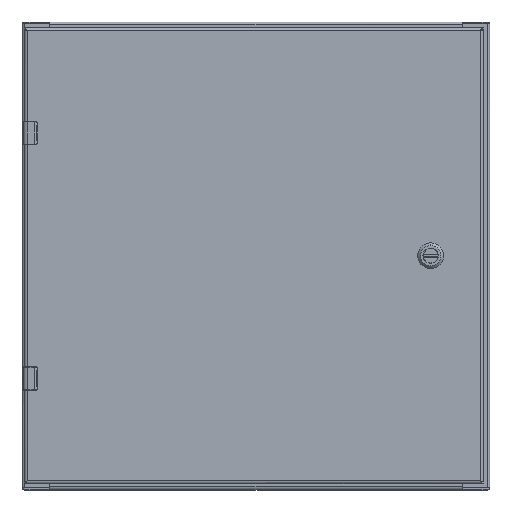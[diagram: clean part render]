
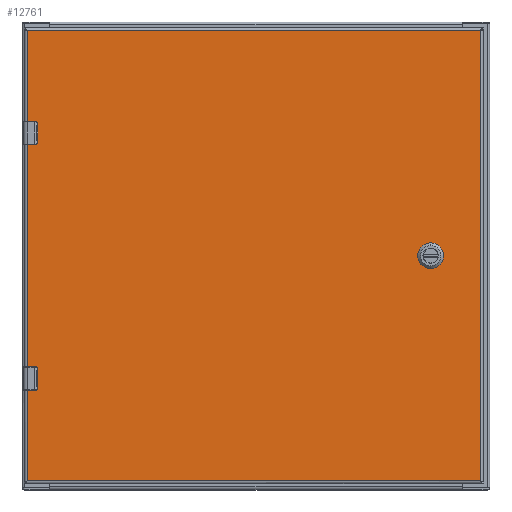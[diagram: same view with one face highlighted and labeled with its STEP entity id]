
A CAD part, top view. The second image highlights one B-rep face of the part: STEP entity #12761.
In plain terms, the highlighted planar face has unit normal (0, 0, 1).
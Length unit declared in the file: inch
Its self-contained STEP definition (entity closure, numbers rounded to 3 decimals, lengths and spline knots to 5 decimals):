
#9442=CARTESIAN_POINT('',(7.5625,0.,0.));
#9443=DIRECTION('',(0.,0.,1.));
#9444=DIRECTION('',(-0.448,0.894,0.));
#9445=AXIS2_PLACEMENT_3D('',#9442,#9443,#9444);
#9450=DIRECTION('',(0.,-1.,0.));
#9451=VECTOR('',#9450,0.39715);
#9452=CARTESIAN_POINT('',(7.1665,0.19858,0.));
#9453=LINE('',#9452,#9451);
#9457=CARTESIAN_POINT('',(7.5625,0.,0.));
#9458=DIRECTION('',(0.,0.,1.));
#9459=DIRECTION('',(-0.894,-0.448,0.));
#9460=AXIS2_PLACEMENT_3D('',#9457,#9458,#9459);
#9465=DIRECTION('',(1.,0.,0.));
#9466=VECTOR('',#9465,0.39715);
#9467=CARTESIAN_POINT('',(7.36392,-0.396,0.));
#9468=LINE('',#9467,#9466);
#9472=CARTESIAN_POINT('',(7.5625,0.,0.));
#9473=DIRECTION('',(0.,0.,1.));
#9474=DIRECTION('',(0.448,-0.894,0.));
#9475=AXIS2_PLACEMENT_3D('',#9472,#9473,#9474);
#9480=DIRECTION('',(0.,1.,0.));
#9481=VECTOR('',#9480,0.39715);
#9482=CARTESIAN_POINT('',(7.9585,-0.19858,0.));
#9483=LINE('',#9482,#9481);
#9487=CARTESIAN_POINT('',(7.5625,0.,0.));
#9488=DIRECTION('',(0.,0.,1.));
#9489=DIRECTION('',(0.894,0.448,0.));
#9490=AXIS2_PLACEMENT_3D('',#9487,#9488,#9489);
#9495=DIRECTION('',(-1.,0.,0.));
#9496=VECTOR('',#9495,0.39715);
#9497=CARTESIAN_POINT('',(7.76108,0.396,0.));
#9498=LINE('',#9497,#9496);
#9502=DIRECTION('',(1.,0.,0.));
#9503=VECTOR('',#9502,0.3629);
#9504=CARTESIAN_POINT('',(-9.6955,-5.595,0.));
#9505=LINE('',#9504,#9503);
#9509=DIRECTION('',(0.,1.,0.));
#9510=VECTOR('',#9509,0.63);
#9511=CARTESIAN_POINT('',(-9.3026,-5.565,0.));
#9512=LINE('',#9511,#9510);
#9516=DIRECTION('',(1.,0.,0.));
#9517=VECTOR('',#9516,0.3629);
#9518=CARTESIAN_POINT('',(-9.6955,-4.905,0.));
#9519=LINE('',#9518,#9517);
#9523=DIRECTION('',(1.,0.,0.));
#9524=VECTOR('',#9523,0.3629);
#9525=CARTESIAN_POINT('',(-9.6955,4.905,0.));
#9526=LINE('',#9525,#9524);
#9530=DIRECTION('',(0.,1.,0.));
#9531=VECTOR('',#9530,0.63);
#9532=CARTESIAN_POINT('',(-9.3026,4.935,0.));
#9533=LINE('',#9532,#9531);
#9537=DIRECTION('',(1.,0.,0.));
#9538=VECTOR('',#9537,0.3629);
#9539=CARTESIAN_POINT('',(-9.6955,5.595,0.));
#9540=LINE('',#9539,#9538);
#10061=DIRECTION('',(0.,-1.,0.));
#10062=VECTOR('',#10061,19.266);
#10063=CARTESIAN_POINT('',(9.6955,9.633,0.));
#10064=LINE('',#10063,#10062);
#10137=DIRECTION('',(1.,0.,0.));
#10138=VECTOR('',#10137,19.391);
#10139=CARTESIAN_POINT('',(-9.6955,9.633,0.));
#10140=LINE('',#10139,#10138);
#10271=DIRECTION('',(0.,1.,0.));
#10272=VECTOR('',#10271,9.81);
#10273=CARTESIAN_POINT('',(-9.6955,-4.905,0.));
#10274=LINE('',#10273,#10272);
#10278=CARTESIAN_POINT('',(-9.6955,9.633,0.));
#10319=DIRECTION('',(0.,1.,0.));
#10320=VECTOR('',#10319,4.038);
#10321=CARTESIAN_POINT('',(-9.6955,5.595,0.));
#10322=LINE('',#10321,#10320);
#10397=DIRECTION('',(0.,1.,0.));
#10398=VECTOR('',#10397,4.038);
#10399=CARTESIAN_POINT('',(-9.6955,-9.633,0.));
#10400=LINE('',#10399,#10398);
#10418=CARTESIAN_POINT('',(-9.3326,-4.935,0.));
#10419=DIRECTION('',(0.,0.,-1.));
#10420=DIRECTION('',(0.,1.,0.));
#10421=AXIS2_PLACEMENT_3D('',#10418,#10419,#10420);
#10448=CARTESIAN_POINT('',(-9.3326,-5.565,0.));
#10449=DIRECTION('',(0.,0.,-1.));
#10450=DIRECTION('',(1.,0.,0.));
#10451=AXIS2_PLACEMENT_3D('',#10448,#10449,#10450);
#10790=DIRECTION('',(-1.,0.,0.));
#10791=VECTOR('',#10790,19.391);
#10792=CARTESIAN_POINT('',(9.6955,-9.633,0.));
#10793=LINE('',#10792,#10791);
#11145=CARTESIAN_POINT('',(-9.3326,5.565,0.));
#11146=DIRECTION('',(0.,0.,-1.));
#11147=DIRECTION('',(0.,1.,0.));
#11148=AXIS2_PLACEMENT_3D('',#11145,#11146,#11147);
#11175=CARTESIAN_POINT('',(-9.3326,4.935,0.));
#11176=DIRECTION('',(0.,0.,-1.));
#11177=DIRECTION('',(1.,0.,0.));
#11178=AXIS2_PLACEMENT_3D('',#11175,#11176,#11177);
#12298=CARTESIAN_POINT('',(9.6955,9.633,0.));
#12299=CARTESIAN_POINT('',(9.6955,-9.633,0.));
#12300=VERTEX_POINT('',#12298);
#12301=VERTEX_POINT('',#12299);
#12386=CARTESIAN_POINT('',(7.36392,0.396,0.));
#12387=CARTESIAN_POINT('',(7.1665,0.19858,0.));
#12388=VERTEX_POINT('',#12386);
#12389=VERTEX_POINT('',#12387);
#12390=CARTESIAN_POINT('',(7.1665,-0.19858,0.));
#12391=VERTEX_POINT('',#12390);
#12392=CARTESIAN_POINT('',(7.36392,-0.396,0.));
#12393=VERTEX_POINT('',#12392);
#12394=CARTESIAN_POINT('',(7.76108,-0.396,0.));
#12395=VERTEX_POINT('',#12394);
#12396=CARTESIAN_POINT('',(7.9585,-0.19858,0.));
#12397=VERTEX_POINT('',#12396);
#12398=CARTESIAN_POINT('',(7.9585,0.19858,0.));
#12399=VERTEX_POINT('',#12398);
#12400=CARTESIAN_POINT('',(7.76108,0.396,0.));
#12401=VERTEX_POINT('',#12400);
#12448=VERTEX_POINT('',#10278);
#12453=CARTESIAN_POINT('',(-9.6955,-9.633,0.));
#12455=VERTEX_POINT('',#12453);
#12544=CARTESIAN_POINT('',(-9.6955,5.595,0.));
#12546=VERTEX_POINT('',#12544);
#12548=CARTESIAN_POINT('',(-9.6955,4.905,0.));
#12550=VERTEX_POINT('',#12548);
#12556=CARTESIAN_POINT('',(-9.3326,5.595,0.));
#12557=VERTEX_POINT('',#12556);
#12558=CARTESIAN_POINT('',(-9.3026,4.935,0.));
#12559=CARTESIAN_POINT('',(-9.3026,5.565,0.));
#12560=VERTEX_POINT('',#12558);
#12561=VERTEX_POINT('',#12559);
#12562=CARTESIAN_POINT('',(-9.3326,4.905,0.));
#12563=VERTEX_POINT('',#12562);
#12592=CARTESIAN_POINT('',(-9.6955,-4.905,0.));
#12594=VERTEX_POINT('',#12592);
#12596=CARTESIAN_POINT('',(-9.6955,-5.595,0.));
#12598=VERTEX_POINT('',#12596);
#12608=CARTESIAN_POINT('',(-9.3326,-4.905,0.));
#12610=VERTEX_POINT('',#12608);
#12612=CARTESIAN_POINT('',(-9.3026,-4.935,0.));
#12614=VERTEX_POINT('',#12612);
#12616=CARTESIAN_POINT('',(-9.3026,-5.565,0.));
#12618=VERTEX_POINT('',#12616);
#12620=CARTESIAN_POINT('',(-9.3326,-5.595,0.));
#12622=VERTEX_POINT('',#12620);
#12704=CARTESIAN_POINT('',(0.,0.,0.));
#12705=DIRECTION('',(0.,0.,-1.));
#12706=DIRECTION('',(1.,0.,0.));
#12707=AXIS2_PLACEMENT_3D('',#12704,#12705,#12706);
#12708=PLANE('',#12707);
#12710=ORIENTED_EDGE('',*,*,#12709,.T.);
#12712=ORIENTED_EDGE('',*,*,#12711,.T.);
#12714=ORIENTED_EDGE('',*,*,#12713,.T.);
#12716=ORIENTED_EDGE('',*,*,#12715,.F.);
#12718=ORIENTED_EDGE('',*,*,#12717,.T.);
#12720=ORIENTED_EDGE('',*,*,#12719,.F.);
#12722=ORIENTED_EDGE('',*,*,#12721,.F.);
#12724=ORIENTED_EDGE('',*,*,#12723,.T.);
#12726=ORIENTED_EDGE('',*,*,#12725,.T.);
#12728=ORIENTED_EDGE('',*,*,#12727,.F.);
#12730=ORIENTED_EDGE('',*,*,#12729,.T.);
#12732=ORIENTED_EDGE('',*,*,#12731,.F.);
#12734=ORIENTED_EDGE('',*,*,#12733,.F.);
#12736=ORIENTED_EDGE('',*,*,#12735,.T.);
#12738=ORIENTED_EDGE('',*,*,#12737,.T.);
#12740=ORIENTED_EDGE('',*,*,#12739,.T.);
#12741=EDGE_LOOP('',(#12710,#12712,#12714,#12716,#12718,#12720,#12722,#12724,
#12726,#12728,#12730,#12732,#12734,#12736,#12738,#12740));
#12742=FACE_OUTER_BOUND('',#12741,.F.);
#12744=ORIENTED_EDGE('',*,*,#12743,.T.);
#12746=ORIENTED_EDGE('',*,*,#12745,.T.);
#12748=ORIENTED_EDGE('',*,*,#12747,.T.);
#12750=ORIENTED_EDGE('',*,*,#12749,.T.);
#12752=ORIENTED_EDGE('',*,*,#12751,.T.);
#12754=ORIENTED_EDGE('',*,*,#12753,.T.);
#12756=ORIENTED_EDGE('',*,*,#12755,.T.);
#12758=ORIENTED_EDGE('',*,*,#12757,.T.);
#12759=EDGE_LOOP('',(#12744,#12746,#12748,#12750,#12752,#12754,#12756,#12758));
#12760=FACE_BOUND('',#12759,.F.);
#9446=CIRCLE('',#9445,0.443);
#9461=CIRCLE('',#9460,0.443);
#9476=CIRCLE('',#9475,0.443);
#9491=CIRCLE('',#9490,0.443);
#10422=CIRCLE('',#10421,0.03);
#10452=CIRCLE('',#10451,0.03);
#11149=CIRCLE('',#11148,0.03);
#11179=CIRCLE('',#11178,0.03);
#12709=EDGE_CURVE('',#12301,#12455,#10793,.T.);
#12711=EDGE_CURVE('',#12455,#12598,#10400,.T.);
#12713=EDGE_CURVE('',#12598,#12622,#9505,.T.);
#12715=EDGE_CURVE('',#12618,#12622,#10452,.T.);
#12717=EDGE_CURVE('',#12618,#12614,#9512,.T.);
#12719=EDGE_CURVE('',#12610,#12614,#10422,.T.);
#12721=EDGE_CURVE('',#12594,#12610,#9519,.T.);
#12723=EDGE_CURVE('',#12594,#12550,#10274,.T.);
#12725=EDGE_CURVE('',#12550,#12563,#9526,.T.);
#12727=EDGE_CURVE('',#12560,#12563,#11179,.T.);
#12729=EDGE_CURVE('',#12560,#12561,#9533,.T.);
#12731=EDGE_CURVE('',#12557,#12561,#11149,.T.);
#12733=EDGE_CURVE('',#12546,#12557,#9540,.T.);
#12735=EDGE_CURVE('',#12546,#12448,#10322,.T.);
#12737=EDGE_CURVE('',#12448,#12300,#10140,.T.);
#12739=EDGE_CURVE('',#12300,#12301,#10064,.T.);
#12743=EDGE_CURVE('',#12388,#12389,#9446,.T.);
#12745=EDGE_CURVE('',#12389,#12391,#9453,.T.);
#12747=EDGE_CURVE('',#12391,#12393,#9461,.T.);
#12749=EDGE_CURVE('',#12393,#12395,#9468,.T.);
#12751=EDGE_CURVE('',#12395,#12397,#9476,.T.);
#12753=EDGE_CURVE('',#12397,#12399,#9483,.T.);
#12755=EDGE_CURVE('',#12399,#12401,#9491,.T.);
#12757=EDGE_CURVE('',#12401,#12388,#9498,.T.);
#12761=ADVANCED_FACE('',(#12742,#12760),#12708,.F.);
